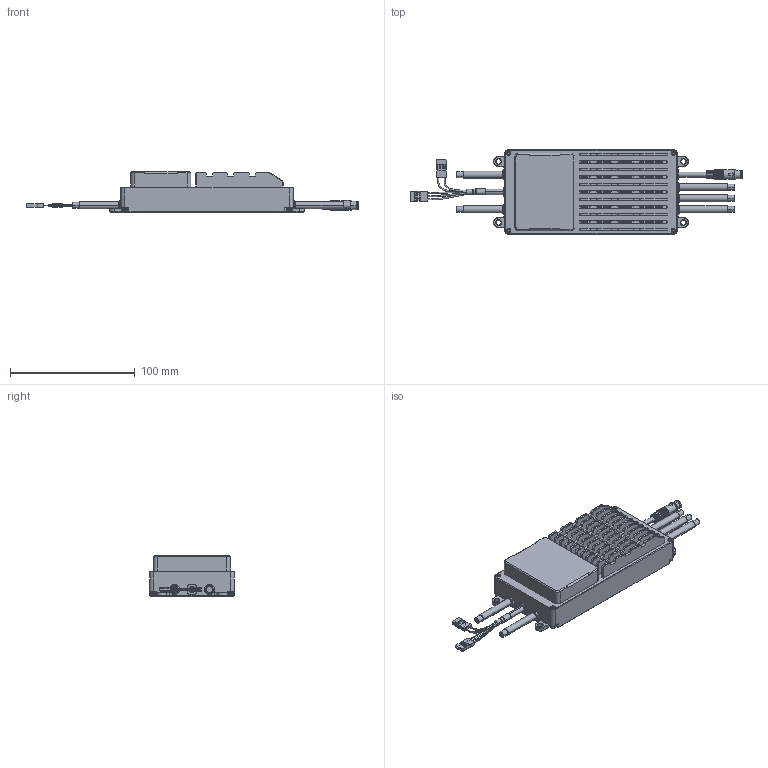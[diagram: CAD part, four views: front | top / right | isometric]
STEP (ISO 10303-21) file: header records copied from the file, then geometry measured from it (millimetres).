
FILE_DESCRIPTION((''),'2;1');
FILE_NAME('XNC00036_SW0001IPC','2026-06-29T18:49:23',('221126'),(''),'CREO PARAMETRIC BY PTC INC, 2021284','CREO PARAMETRIC BY PTC INC, 2021284','');
FILE_SCHEMA(('CONFIG_CONTROL_DESIGN'));
Products named in the file (1): XNC00036_SW0001IPC
Bounding box: 266.07 x 68 x 32.5 mm (x, y, z)
Volume: 232165.9 mm3; surface area: 62550.7 mm2
Topology: 4 solids, 7 shells, 2642 faces, 6686 edges, 4136 vertices
Faces by surface type: plane 1703, cylinder 605, cone 198, bspline 79, torus 55, extrusion 2
Entity records: 92913 total; most frequent: CARTESIAN_POINT 29109, ORIENTED_EDGE 13372, DIRECTION 13309, EDGE_CURVE 6686, AXIS2_PLACEMENT_3D 4516, VECTOR 4277, LINE 4275, VERTEX_POINT 4136
